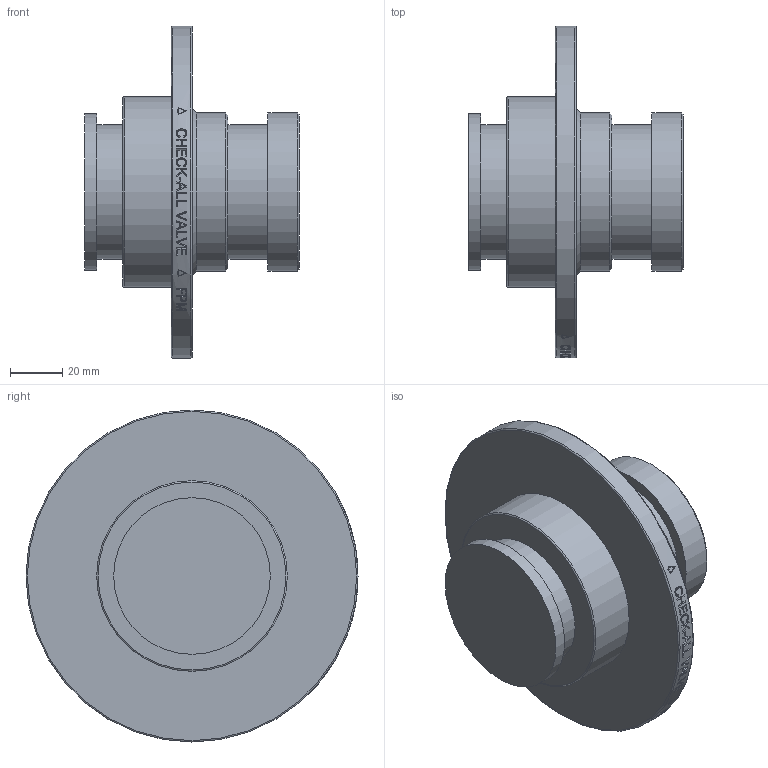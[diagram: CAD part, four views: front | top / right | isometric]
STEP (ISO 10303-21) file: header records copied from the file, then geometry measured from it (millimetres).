
FILE_DESCRIPTION( ( 'Unknown' ), '1' );
FILE_NAME( 'Y:/ENGR/3D Solid Edge Models/FP/FP STEP/FPM.stp', 'Unknown', ( 'Unknown' ), ( 'Unknown' ), 'PSStep 14.0', 'Unknown', ' ' );
FILE_SCHEMA( ( 'AUTOMOTIVE_DESIGN { 1 0 10303 214 1 1 1 1 }' ) );
Length unit declared in the file: millimetre
Products named in the file (1): 1
Bounding box: 82.22 x 127 x 127 mm (x, y, z)
Volume: 318800.4 mm3; surface area: 45649.1 mm2
Topology: 1 solids, 1 shells, 216 faces, 546 edges, 362 vertices
Faces by surface type: plane 132, bspline 47, cylinder 31, torus 3, cone 3
Full cylindrical faces by diameter (mm): 51.435 x2, 59.944 x1, 60.452 x2, 72.898 x1, 127 x1
Entity records: 10175 total; most frequent: CARTESIAN_POINT 4413, ORIENTED_EDGE 1066, EDGE_CURVE 533, B_SPLINE_CURVE_WITH_KNOTS 513, DIRECTION 380, VERTEX_POINT 362, EDGE_LOOP 259, FACE_OUTER_BOUND 226
